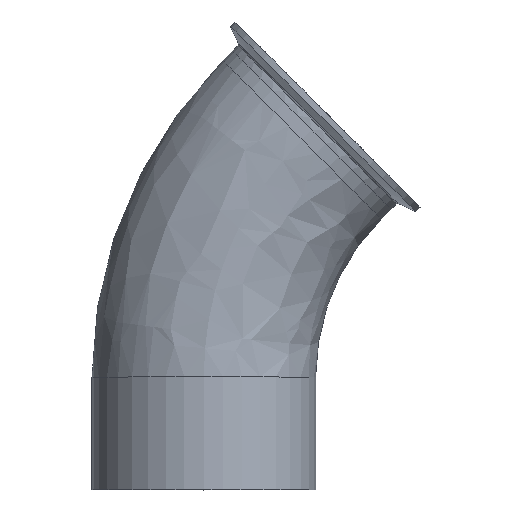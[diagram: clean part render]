
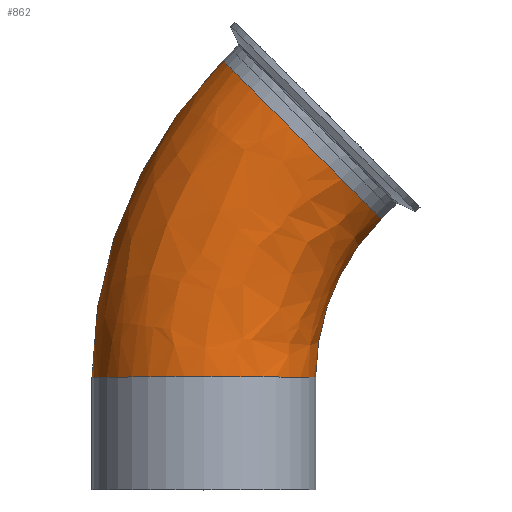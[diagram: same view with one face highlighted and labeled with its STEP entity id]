
A CAD part, top view. The second image highlights one B-rep face of the part: STEP entity #862.
In plain terms, the highlighted free-form (B-spline) face has degree [3, 3] with [4, 4] control points.
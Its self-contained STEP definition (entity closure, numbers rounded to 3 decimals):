
#2 = CARTESIAN_POINT ( 'NONE',  ( -29.901, 156.241, 0. ) ) ;
#16 = CARTESIAN_POINT ( 'NONE',  ( -50.8, 105.786, 0. ) ) ;
#28 = CARTESIAN_POINT ( 'NONE',  ( -50.8, 51.174, 0. ) ) ;
#46 = DIRECTION ( 'NONE',  ( -1., 0., 0. ) ) ;
#63 = DIRECTION ( 'NONE',  ( 0., 1., 0. ) ) ;
#67 = AXIS2_PLACEMENT_3D ( 'NONE', #245, #63, #46 ) ;
#68 = CARTESIAN_POINT ( 'NONE',  ( 152.4, 51.174, 0. ) ) ;
#86 = DIRECTION ( 'NONE',  ( -1., 0., 0. ) ) ;
#100 = DIRECTION ( 'NONE',  ( 0., 0., -1. ) ) ;
#199 = FACE_OUTER_BOUND ( 'NONE', #1614, .T. ) ;
#211 = EDGE_CURVE ( 'NONE', #1888, #438, #451, .T. ) ;
#214 = CARTESIAN_POINT ( 'NONE',  ( 61.25, 103.708, 0. ) ) ;
#232 = VERTEX_POINT ( 'NONE', #28 ) ;
#245 = CARTESIAN_POINT ( 'NONE',  ( 0., 51.174, 0. ) ) ;
#313 = CARTESIAN_POINT ( 'NONE',  ( -50.8, 51.174, 0. ) ) ;
#317 =( BOUNDED_SURFACE ( )  B_SPLINE_SURFACE ( 3, 3, ( 
 ( #313, #16, #2, #762 ),
 ( #772, #750, #636, #1781 ),
 ( #755, #1916, #1830, #1824 ),
 ( #1806, #1713, #214, #915 ) ),
 .UNSPECIFIED., .F., .F., .T. ) 
 B_SPLINE_SURFACE_WITH_KNOTS ( ( 4, 4 ),
 ( 4, 4 ),
 ( 0., 1. ),
 ( 0., 1. ),
 .UNSPECIFIED. ) 
 GEOMETRIC_REPRESENTATION_ITEM ( )  RATIONAL_B_SPLINE_SURFACE ( (
 ( 1., 0.949, 0.949, 1.),
 ( 0.333, 0.316, 0.316, 0.333),
 ( 0.333, 0.316, 0.316, 0.333),
 ( 1., 0.949, 0.949, 1.) ) ) 
 REPRESENTATION_ITEM ( '' )  SURFACE ( )  );
#321 = ORIENTED_EDGE ( 'NONE', *, *, #414, .T. ) ;
#333 = AXIS2_PLACEMENT_3D ( 'NONE', #1458, #1410, #1345 ) ;
#414 = EDGE_CURVE ( 'NONE', #1196, #1888, #1103, .T. ) ;
#438 = VERTEX_POINT ( 'NONE', #1474 ) ;
#451 = CIRCLE ( 'NONE', #774, 50.8 ) ;
#457 = CIRCLE ( 'NONE', #1794, 203.2 ) ;
#555 = CIRCLE ( 'NONE', #67, 50.8 ) ;
#636 = CARTESIAN_POINT ( 'NONE',  ( -29.901, 156.241, 101.6 ) ) ;
#747 = ORIENTED_EDGE ( 'NONE', *, *, #1163, .T. ) ;
#750 = CARTESIAN_POINT ( 'NONE',  ( -50.8, 105.786, 101.6 ) ) ;
#755 = CARTESIAN_POINT ( 'NONE',  ( 50.8, 51.174, 101.6 ) ) ;
#762 = CARTESIAN_POINT ( 'NONE',  ( 8.716, 194.858, 0. ) ) ;
#772 = CARTESIAN_POINT ( 'NONE',  ( -50.8, 51.174, 101.6 ) ) ;
#774 = AXIS2_PLACEMENT_3D ( 'NONE', #1442, #1425, #1844 ) ;
#862 = ADVANCED_FACE ( 'NONE', ( #199 ), #317, .T. ) ;
#915 = CARTESIAN_POINT ( 'NONE',  ( 80.558, 123.016, 0. ) ) ;
#967 = ORIENTED_EDGE ( 'NONE', *, *, #1142, .F. ) ;
#1001 = CARTESIAN_POINT ( 'NONE',  ( 50.8, 51.174, 0. ) ) ;
#1103 = CIRCLE ( 'NONE', #333, 101.6 ) ;
#1142 = EDGE_CURVE ( 'NONE', #232, #438, #457, .T. ) ;
#1163 = EDGE_CURVE ( 'NONE', #232, #1196, #555, .T. ) ;
#1196 = VERTEX_POINT ( 'NONE', #1001 ) ;
#1203 = ORIENTED_EDGE ( 'NONE', *, *, #211, .T. ) ;
#1345 = DIRECTION ( 'NONE',  ( -1., 0., 0. ) ) ;
#1410 = DIRECTION ( 'NONE',  ( 0., 0., -1. ) ) ;
#1425 = DIRECTION ( 'NONE',  ( -0.707, -0.707, 0. ) ) ;
#1442 = CARTESIAN_POINT ( 'NONE',  ( 44.637, 158.937, 0. ) ) ;
#1458 = CARTESIAN_POINT ( 'NONE',  ( 152.4, 51.174, 0. ) ) ;
#1474 = CARTESIAN_POINT ( 'NONE',  ( 8.716, 194.858, 0. ) ) ;
#1614 = EDGE_LOOP ( 'NONE', ( #747, #321, #1203, #967 ) ) ;
#1713 = CARTESIAN_POINT ( 'NONE',  ( 50.8, 78.48, 0. ) ) ;
#1781 = CARTESIAN_POINT ( 'NONE',  ( 8.716, 194.858, 101.6 ) ) ;
#1794 = AXIS2_PLACEMENT_3D ( 'NONE', #68, #100, #86 ) ;
#1806 = CARTESIAN_POINT ( 'NONE',  ( 50.8, 51.174, 0. ) ) ;
#1824 = CARTESIAN_POINT ( 'NONE',  ( 80.558, 123.016, 101.6 ) ) ;
#1828 = CARTESIAN_POINT ( 'NONE',  ( 80.558, 123.016, 0. ) ) ;
#1830 = CARTESIAN_POINT ( 'NONE',  ( 61.25, 103.708, 101.6 ) ) ;
#1844 = DIRECTION ( 'NONE',  ( -0.707, 0.707, 0. ) ) ;
#1888 = VERTEX_POINT ( 'NONE', #1828 ) ;
#1916 = CARTESIAN_POINT ( 'NONE',  ( 50.8, 78.48, 101.6 ) ) ;
